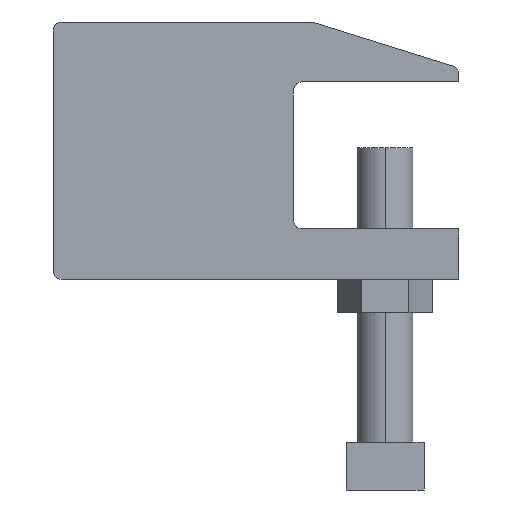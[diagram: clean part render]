
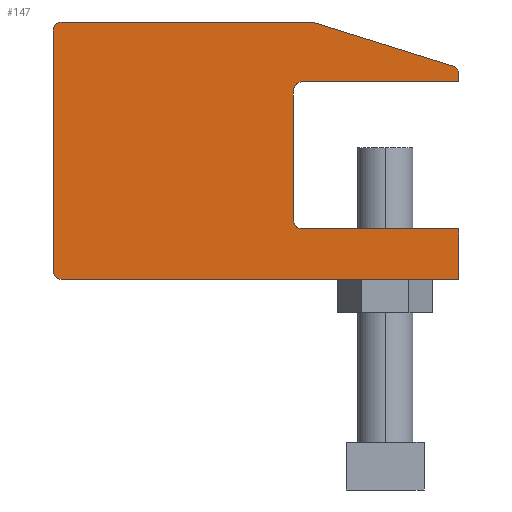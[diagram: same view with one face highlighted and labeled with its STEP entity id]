
A CAD part, front view. The second image highlights one B-rep face of the part: STEP entity #147.
In plain terms, the highlighted planar face has unit normal (0, -1, 0).
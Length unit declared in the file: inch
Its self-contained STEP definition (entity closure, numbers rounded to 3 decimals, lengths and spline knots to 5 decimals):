
#147=ADVANCED_FACE('',(#294),#295,.T.);
#294=FACE_OUTER_BOUND('',#549,.T.);
#295=PLANE('',#550);
#549=EDGE_LOOP('',(#820,#821,#822,#823,#824,#825,#826,#827,#828,#829,#830,#831,#832,#833,#834));
#550=AXIS2_PLACEMENT_3D('',#835,#836,#837);
#820=ORIENTED_EDGE('',*,*,#987,.F.);
#821=ORIENTED_EDGE('',*,*,#1001,.F.);
#822=ORIENTED_EDGE('',*,*,#1097,.F.);
#823=ORIENTED_EDGE('',*,*,#1071,.F.);
#824=ORIENTED_EDGE('',*,*,#1098,.F.);
#825=ORIENTED_EDGE('',*,*,#1099,.F.);
#826=ORIENTED_EDGE('',*,*,#996,.F.);
#827=ORIENTED_EDGE('',*,*,#1100,.F.);
#828=ORIENTED_EDGE('',*,*,#1027,.F.);
#829=ORIENTED_EDGE('',*,*,#1082,.F.);
#830=ORIENTED_EDGE('',*,*,#1101,.F.);
#831=ORIENTED_EDGE('',*,*,#1078,.F.);
#832=ORIENTED_EDGE('',*,*,#1045,.F.);
#833=ORIENTED_EDGE('',*,*,#1102,.F.);
#834=ORIENTED_EDGE('',*,*,#1067,.F.);
#835=CARTESIAN_POINT('',(1.35011,0.0,0.83615));
#836=DIRECTION('',(0.0,-1.0,0.0));
#837=DIRECTION('',(1.0,0.0,0.0));
#987=EDGE_CURVE('',#1155,#1156,#1157,.T.);
#996=EDGE_CURVE('',#1172,#1173,#1174,.T.);
#1001=EDGE_CURVE('',#1181,#1155,#1182,.T.);
#1027=EDGE_CURVE('',#1223,#1224,#1225,.T.);
#1045=EDGE_CURVE('',#1253,#1254,#1255,.T.);
#1067=EDGE_CURVE('',#1156,#1284,#1285,.T.);
#1071=EDGE_CURVE('',#1290,#1291,#1292,.T.);
#1078=EDGE_CURVE('',#1254,#1301,#1302,.T.);
#1082=EDGE_CURVE('',#1307,#1223,#1308,.T.);
#1097=EDGE_CURVE('',#1291,#1181,#1327,.T.);
#1098=EDGE_CURVE('',#1328,#1290,#1329,.T.);
#1099=EDGE_CURVE('',#1173,#1328,#1330,.T.);
#1100=EDGE_CURVE('',#1224,#1172,#1331,.T.);
#1101=EDGE_CURVE('',#1301,#1307,#1332,.T.);
#1102=EDGE_CURVE('',#1284,#1253,#1333,.T.);
#1155=VERTEX_POINT('',#1408);
#1156=VERTEX_POINT('',#1409);
#1157=LINE('',#1410,#1411);
#1172=VERTEX_POINT('',#1441);
#1173=VERTEX_POINT('',#1442);
#1174=LINE('',#1443,#1444);
#1181=VERTEX_POINT('',#1454);
#1182=LINE('',#1455,#1456);
#1223=VERTEX_POINT('',#1528);
#1224=VERTEX_POINT('',#1529);
#1225=B_SPLINE_CURVE_WITH_KNOTS('',3,(#1530,#1531,#1532,#1533),.UNSPECIFIED.,.F.,.F.,(4,4),(-1.0,-0.0),.UNSPECIFIED.);
#1253=VERTEX_POINT('',#1580);
#1254=VERTEX_POINT('',#1581);
#1255=B_SPLINE_CURVE_WITH_KNOTS('',3,(#1582,#1583,#1584,#1585),.UNSPECIFIED.,.F.,.F.,(4,4),(-1.0,-0.0),.UNSPECIFIED.);
#1284=VERTEX_POINT('',#1639);
#1285=B_SPLINE_CURVE_WITH_KNOTS('',3,(#1640,#1641,#1642,#1643),.UNSPECIFIED.,.F.,.F.,(4,4),(-1.0,-0.0),.UNSPECIFIED.);
#1290=VERTEX_POINT('',#1652);
#1291=VERTEX_POINT('',#1653);
#1292=B_SPLINE_CURVE_WITH_KNOTS('',3,(#1654,#1655,#1656,#1657),.UNSPECIFIED.,.F.,.F.,(4,4),(-1.0,-0.0),.UNSPECIFIED.);
#1301=VERTEX_POINT('',#1674);
#1302=LINE('',#1675,#1676);
#1307=VERTEX_POINT('',#1683);
#1308=LINE('',#1684,#1685);
#1327=LINE('',#1715,#1716);
#1328=VERTEX_POINT('',#1717);
#1329=LINE('',#1718,#1719);
#1330=B_SPLINE_CURVE_WITH_KNOTS('',3,(#1720,#1721,#1722,#1723),.UNSPECIFIED.,.F.,.F.,(4,4),(-1.0,-0.0),.UNSPECIFIED.);
#1331=LINE('',#1724,#1725);
#1332=CIRCLE('',#1726,0.06251);
#1333=LINE('',#1727,#1728);
#1408=CARTESIAN_POINT('',(2.69528,0.0,0.0));
#1409=CARTESIAN_POINT('',(0.0,0.0,0.0));
#1410=CARTESIAN_POINT('',(0.0,0.0,0.0));
#1411=VECTOR('',#1778,1.0);
#1441=CARTESIAN_POINT('',(2.69528,0.0,1.34375));
#1442=CARTESIAN_POINT('',(1.63278,0.0,1.34375));
#1443=CARTESIAN_POINT('',(1.63278,0.0,1.34375));
#1444=VECTOR('',#1782,1.0);
#1454=CARTESIAN_POINT('',(2.69528,0.0,0.34375));
#1455=CARTESIAN_POINT('',(2.69528,0.0,0.0));
#1456=VECTOR('',#1786,1.0);
#1528=CARTESIAN_POINT('',(2.65142,0.0,1.45121));
#1529=CARTESIAN_POINT('',(2.69528,0.0,1.39155));
#1530=CARTESIAN_POINT('',(2.65142,0.0,1.45121));
#1531=CARTESIAN_POINT('',(2.67752,0.0,1.44305));
#1532=CARTESIAN_POINT('',(2.69528,0.0,1.41889));
#1533=CARTESIAN_POINT('',(2.69528,0.0,1.39155));
#1580=CARTESIAN_POINT('',(-0.0625,0.0,1.6875));
#1581=CARTESIAN_POINT('',(0.0,0.0,1.75));
#1582=CARTESIAN_POINT('',(-0.0625,0.0,1.6875));
#1583=CARTESIAN_POINT('',(-0.0625,0.0,1.72202));
#1584=CARTESIAN_POINT('',(-0.03452,0.0,1.75));
#1585=CARTESIAN_POINT('',(0.0,0.0,1.75));
#1639=CARTESIAN_POINT('',(-0.0625,0.0,0.0625));
#1640=CARTESIAN_POINT('',(0.0,0.0,0.0));
#1641=CARTESIAN_POINT('',(-0.03452,0.0,0.0));
#1642=CARTESIAN_POINT('',(-0.0625,0.0,0.02798));
#1643=CARTESIAN_POINT('',(-0.0625,0.0,0.0625));
#1652=CARTESIAN_POINT('',(1.57028,0.0,0.40625));
#1653=CARTESIAN_POINT('',(1.63278,0.0,0.34375));
#1654=CARTESIAN_POINT('',(1.57028,0.0,0.40625));
#1655=CARTESIAN_POINT('',(1.57028,0.0,0.37173));
#1656=CARTESIAN_POINT('',(1.59827,0.0,0.34375));
#1657=CARTESIAN_POINT('',(1.63278,0.0,0.34375));
#1674=CARTESIAN_POINT('',(1.68575,0.0,1.75));
#1675=CARTESIAN_POINT('',(1.68575,0.0,1.75));
#1676=VECTOR('',#1823,1.0);
#1683=CARTESIAN_POINT('',(1.70439,0.0,1.74716));
#1684=CARTESIAN_POINT('',(2.65142,0.0,1.45121));
#1685=VECTOR('',#1826,1.0);
#1715=CARTESIAN_POINT('',(2.69528,0.0,0.34375));
#1716=VECTOR('',#1835,1.0);
#1717=CARTESIAN_POINT('',(1.57028,0.0,1.28125));
#1718=CARTESIAN_POINT('',(1.57028,0.0,0.40625));
#1719=VECTOR('',#1836,1.0);
#1720=CARTESIAN_POINT('',(1.63278,0.0,1.34375));
#1721=CARTESIAN_POINT('',(1.59827,0.0,1.34375));
#1722=CARTESIAN_POINT('',(1.57028,0.0,1.31577));
#1723=CARTESIAN_POINT('',(1.57028,0.0,1.28125));
#1724=CARTESIAN_POINT('',(2.69528,0.0,1.34375));
#1725=VECTOR('',#1837,1.0);
#1726=AXIS2_PLACEMENT_3D('',#1838,#1839,#1840);
#1727=CARTESIAN_POINT('',(-0.0625,0.0,1.6875));
#1728=VECTOR('',#1841,1.0);
#1778=DIRECTION('',(-1.0,0.0,-0.0));
#1782=DIRECTION('',(-1.0,0.0,-0.0));
#1786=DIRECTION('',(-0.0,0.0,-1.0));
#1823=DIRECTION('',(1.0,0.0,0.0));
#1826=DIRECTION('',(0.954,0.0,-0.298));
#1835=DIRECTION('',(1.0,0.0,0.0));
#1836=DIRECTION('',(-0.0,0.0,-1.0));
#1837=DIRECTION('',(-0.0,0.0,-1.0));
#1838=CARTESIAN_POINT('',(1.68575,0.0,1.68749));
#1839=DIRECTION('',(-0.0,1.0,0.0));
#1840=DIRECTION('',(0.298,0.0,0.955));
#1841=DIRECTION('',(0.0,0.0,1.0));
